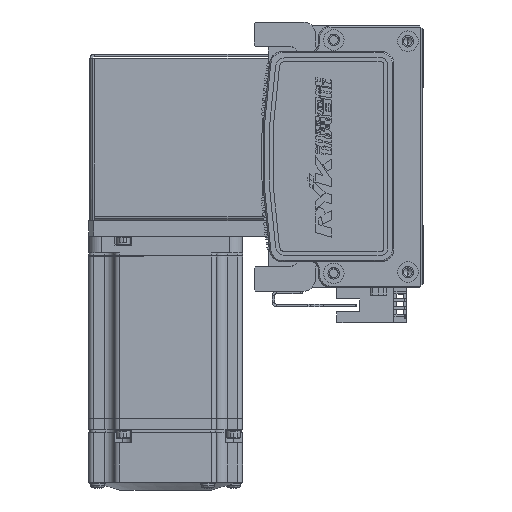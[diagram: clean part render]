
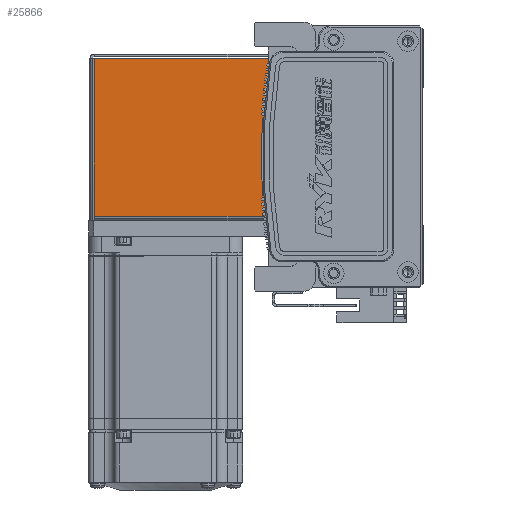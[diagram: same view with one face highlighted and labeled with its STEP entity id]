
A CAD part, left-side view. The second image highlights one B-rep face of the part: STEP entity #25866.
In plain terms, the highlighted planar face has unit normal (-1, 0, 0) as drawn and (0, 0, 1) by its records, which use the part's own axes.
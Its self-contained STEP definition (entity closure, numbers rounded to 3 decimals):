
#1088 = LINE ( 'NONE', #7971, #3485 ) ;
#3014 = DIRECTION ( 'NONE',  ( -1., 0., 0. ) ) ;
#3485 = VECTOR ( 'NONE', #63934, 1000. ) ;
#4807 = ORIENTED_EDGE ( 'NONE', *, *, #16819, .F. ) ;
#4827 = DIRECTION ( 'NONE',  ( -1., 0., 0. ) ) ;
#4885 = VECTOR ( 'NONE', #16943, 1000. ) ;
#6725 = VERTEX_POINT ( 'NONE', #13576 ) ;
#7971 = CARTESIAN_POINT ( 'NONE',  ( 30.763, 0.737, 35. ) ) ;
#8386 = PLANE ( 'NONE',  #46785 ) ;
#8861 = LINE ( 'NONE', #63414, #4885 ) ;
#9093 = CARTESIAN_POINT ( 'NONE',  ( -30.793, 0., 35. ) ) ;
#9591 = EDGE_CURVE ( 'NONE', #66286, #31403, #39497, .T. ) ;
#12737 = CARTESIAN_POINT ( 'NONE',  ( 30.763, 68.5, 35. ) ) ;
#12792 = VECTOR ( 'NONE', #60756, 1000. ) ;
#13533 = EDGE_CURVE ( 'NONE', #25464, #31403, #14036, .T. ) ;
#13576 = CARTESIAN_POINT ( 'NONE',  ( 30.763, 0.737, 35. ) ) ;
#13826 = ORIENTED_EDGE ( 'NONE', *, *, #60236, .T. ) ;
#14036 = LINE ( 'NONE', #25553, #17261 ) ;
#14828 = CARTESIAN_POINT ( 'NONE',  ( -30.793, 68.5, 35. ) ) ;
#16819 = EDGE_CURVE ( 'NONE', #6725, #66286, #8861, .T. ) ;
#16943 = DIRECTION ( 'NONE',  ( -1., 0., 0. ) ) ;
#17261 = VECTOR ( 'NONE', #4827, 1000. ) ;
#22788 = DIRECTION ( 'NONE',  ( 0., 0., -1. ) ) ;
#25464 = VERTEX_POINT ( 'NONE', #12737 ) ;
#25553 = CARTESIAN_POINT ( 'NONE',  ( 0., 68.5, 35. ) ) ;
#25866 = ADVANCED_FACE ( 'NONE', ( #36848 ), #8386, .F. ) ;
#27672 = ORIENTED_EDGE ( 'NONE', *, *, #9591, .F. ) ;
#31403 = VERTEX_POINT ( 'NONE', #14828 ) ;
#36848 = FACE_OUTER_BOUND ( 'NONE', #59499, .T. ) ;
#39497 = LINE ( 'NONE', #9093, #12792 ) ;
#44166 = CARTESIAN_POINT ( 'NONE',  ( -30.793, 0.737, 35. ) ) ;
#46785 = AXIS2_PLACEMENT_3D ( 'NONE', #53932, #22788, #3014 ) ;
#49557 = ORIENTED_EDGE ( 'NONE', *, *, #13533, .T. ) ;
#53932 = CARTESIAN_POINT ( 'NONE',  ( 0., 0., 35. ) ) ;
#59499 = EDGE_LOOP ( 'NONE', ( #13826, #49557, #27672, #4807 ) ) ;
#60236 = EDGE_CURVE ( 'NONE', #6725, #25464, #1088, .T. ) ;
#60756 = DIRECTION ( 'NONE',  ( 0., 1., 0. ) ) ;
#63414 = CARTESIAN_POINT ( 'NONE',  ( -32.5, 0.737, 35. ) ) ;
#63934 = DIRECTION ( 'NONE',  ( 0., 1., 0. ) ) ;
#66286 = VERTEX_POINT ( 'NONE', #44166 ) ;
